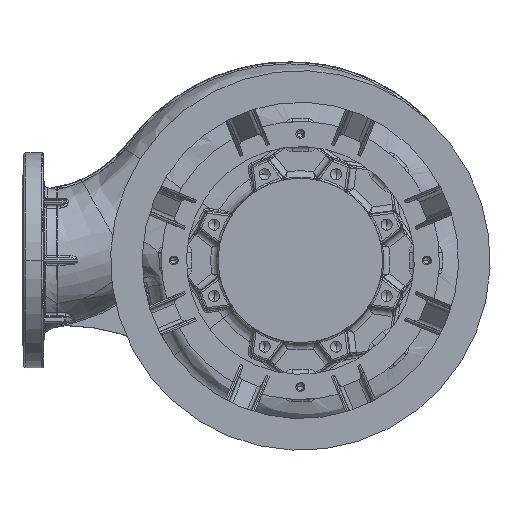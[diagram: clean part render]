
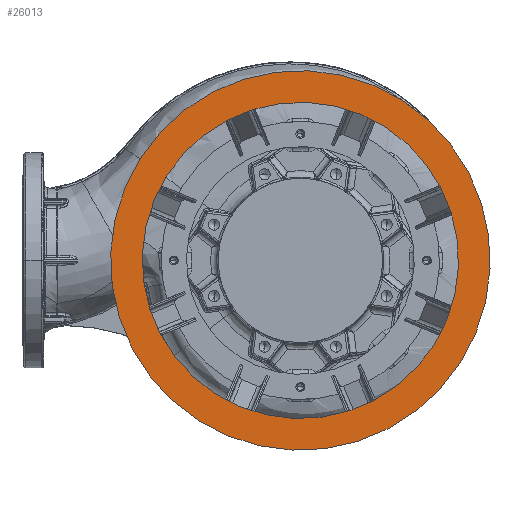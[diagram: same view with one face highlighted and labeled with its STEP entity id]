
A CAD part, front view. The second image highlights one B-rep face of the part: STEP entity #26013.
In plain terms, the highlighted planar face has unit normal (0, -1, 0).
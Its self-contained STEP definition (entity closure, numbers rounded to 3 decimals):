
#46 = CIRCLE ( 'NONE', #181249, 300. ) ;
#1565 = ORIENTED_EDGE ( 'NONE', *, *, #78751, .T. ) ;
#6979 = CARTESIAN_POINT ( 'NONE',  ( 0., -685.5, 0. ) ) ;
#8997 = FACE_BOUND ( 'NONE', #180010, .T. ) ;
#9903 = FACE_OUTER_BOUND ( 'NONE', #68516, .T. ) ;
#11516 = DIRECTION ( 'NONE',  ( -0.924, 0., 0.383 ) ) ;
#13298 = ORIENTED_EDGE ( 'NONE', *, *, #47134, .T. ) ;
#21514 = DIRECTION ( 'NONE',  ( -0.924, 0., 0.383 ) ) ;
#22687 = AXIS2_PLACEMENT_3D ( 'NONE', #84579, #184894, #98916 ) ;
#26013 = ADVANCED_FACE ( 'NONE', ( #9903, #8997 ), #98306, .F. ) ;
#32341 = VERTEX_POINT ( 'NONE', #88825 ) ;
#35621 = AXIS2_PLACEMENT_3D ( 'NONE', #74448, #174809, #88835 ) ;
#47134 = EDGE_CURVE ( 'NONE', #32341, #156100, #58489, .T. ) ;
#49427 = CIRCLE ( 'NONE', #35621, 250. ) ;
#51646 = EDGE_CURVE ( 'NONE', #56747, #123004, #157050, .T. ) ;
#52684 = CARTESIAN_POINT ( 'NONE',  ( -277.164, -685.5, 114.805 ) ) ;
#56529 = CARTESIAN_POINT ( 'NONE',  ( 0., -685.5, 0. ) ) ;
#56655 = ORIENTED_EDGE ( 'NONE', *, *, #78250, .F. ) ;
#56747 = VERTEX_POINT ( 'NONE', #52684 ) ;
#58489 = CIRCLE ( 'NONE', #156863, 250. ) ;
#68516 = EDGE_LOOP ( 'NONE', ( #56655, #159042 ) ) ;
#71045 = DIRECTION ( 'NONE',  ( -0.924, 0., 0.383 ) ) ;
#74448 = CARTESIAN_POINT ( 'NONE',  ( 0., -685.5, 0. ) ) ;
#78250 = EDGE_CURVE ( 'NONE', #123004, #56747, #46, .T. ) ;
#78751 = EDGE_CURVE ( 'NONE', #156100, #32341, #49427, .T. ) ;
#84579 = CARTESIAN_POINT ( 'NONE',  ( 0., -685.5, 0. ) ) ;
#88825 = CARTESIAN_POINT ( 'NONE',  ( 230.97, -685.5, -95.671 ) ) ;
#88835 = DIRECTION ( 'NONE',  ( -0.924, 0., 0.383 ) ) ;
#97916 = DIRECTION ( 'NONE',  ( 0., 1., 0. ) ) ;
#98306 = PLANE ( 'NONE',  #22687 ) ;
#98916 = DIRECTION ( 'NONE',  ( -0.924, 0., 0.383 ) ) ;
#107757 = DIRECTION ( 'NONE',  ( 0., 1., 0. ) ) ;
#123004 = VERTEX_POINT ( 'NONE', #178841 ) ;
#156100 = VERTEX_POINT ( 'NONE', #156834 ) ;
#156834 = CARTESIAN_POINT ( 'NONE',  ( -230.97, -685.5, 95.671 ) ) ;
#156863 = AXIS2_PLACEMENT_3D ( 'NONE', #6979, #107757, #21514 ) ;
#157019 = DIRECTION ( 'NONE',  ( 0., 1., 0. ) ) ;
#157050 = CIRCLE ( 'NONE', #176811, 300. ) ;
#159042 = ORIENTED_EDGE ( 'NONE', *, *, #51646, .F. ) ;
#174809 = DIRECTION ( 'NONE',  ( 0., 1., 0. ) ) ;
#176811 = AXIS2_PLACEMENT_3D ( 'NONE', #56529, #157019, #71045 ) ;
#178841 = CARTESIAN_POINT ( 'NONE',  ( 277.164, -685.5, -114.805 ) ) ;
#180010 = EDGE_LOOP ( 'NONE', ( #13298, #1565 ) ) ;
#181249 = AXIS2_PLACEMENT_3D ( 'NONE', #183868, #97916, #11516 ) ;
#183868 = CARTESIAN_POINT ( 'NONE',  ( 0., -685.5, 0. ) ) ;
#184894 = DIRECTION ( 'NONE',  ( 0., 1., 0. ) ) ;
